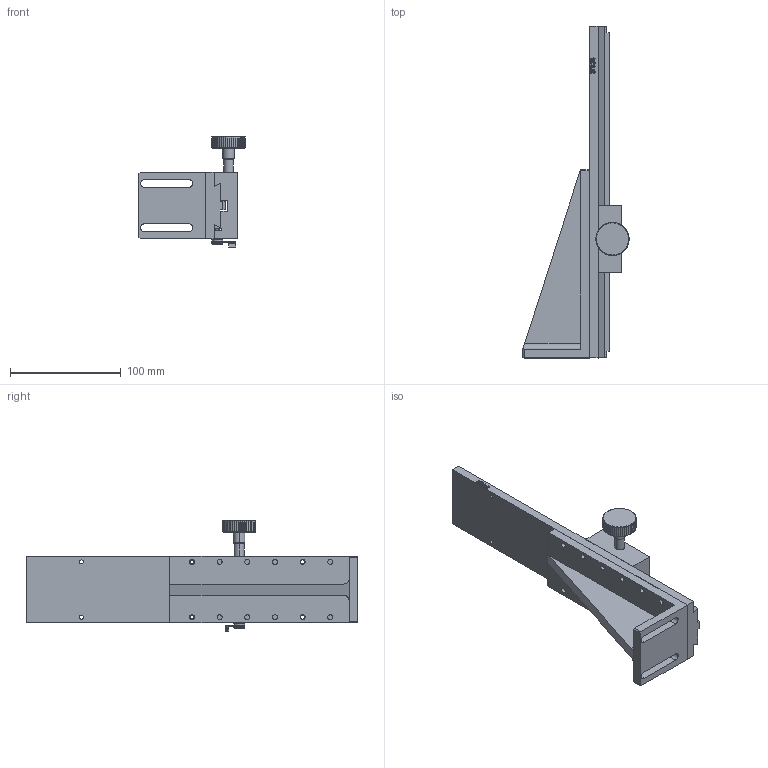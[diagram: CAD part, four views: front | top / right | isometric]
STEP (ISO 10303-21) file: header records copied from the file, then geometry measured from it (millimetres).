
FILE_DESCRIPTION (( 'STEP AP214' ), '1' );
FILE_NAME ('PT-DZ60-300.STEP', '2022-09-17T03:35:32', ( '' ), ( '' ), 'SwSTEP 2.0', 'SolidWorks 2017', '' );
FILE_SCHEMA (( 'AUTOMOTIVE_DESIGN' ));
Length unit declared in the file: millimetre
Products named in the file (9): 60L倰啣-170; LWX60 賑輸; LWX40.0.4; LWX60-300-1; LWX40.0.3; LWX60.0.1; PT-DZ60-300; LWX60-300
Assembly tree (8 placements, depth 4):
  PT-DZ60-300
    LWX60-300
      LWX60-300-1
      LWX60 賑輸
        LWX60 賑輸
        LWX60.0.1
        LWX40.0.3
        LWX40.0.4
    60L倰啣-170
Bounding box: 96 x 300 x 100.5 mm (x, y, z)
Volume: 424197.7 mm3; surface area: 112235.5 mm2
Topology: 6 solids, 6 shells, 743 faces, 2035 edges, 1350 vertices
Faces by surface type: plane 334, cylinder 246, bspline 153, cone 10
Entity records: 35342 total; most frequent: CARTESIAN_POINT 12790, ORIENTED_EDGE 4070, DIRECTION 3135, EDGE_CURVE 2035, VERTEX_POINT 1350, VECTOR 1197, LINE 1197, AXIS2_PLACEMENT_3D 969
